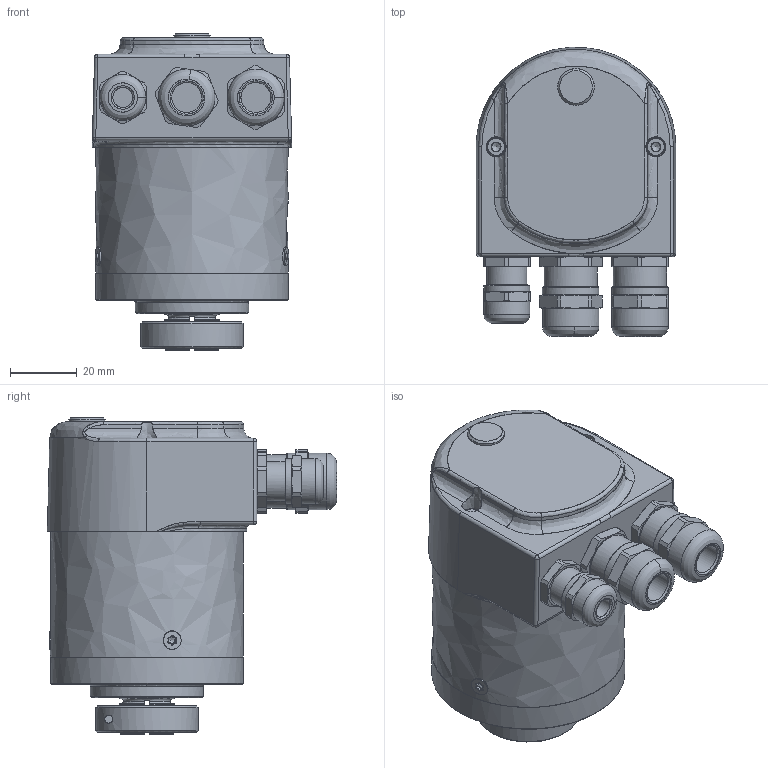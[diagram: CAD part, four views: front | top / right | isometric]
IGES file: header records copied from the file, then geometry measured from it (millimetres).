
Start section: C
Global section: file name: EN580C.xL-BN12.HH2PB.xxxx.H.igs; native system: By Siemens PLM Incorporated; preprocessor: XPlus GENERIC/IGES 23.0.61; author: Author; organization: Title; date: 20230414.151403; units: millimetre
Bounding box: 60 x 86.94 x 95.2 mm (x, y, z)
Surface area: 33280 mm2 (no closed solid volume)
Topology: 0 solids, 0 shells, 555 faces, 3010 edges, 2992 vertices
Faces by surface type: bspline 555
